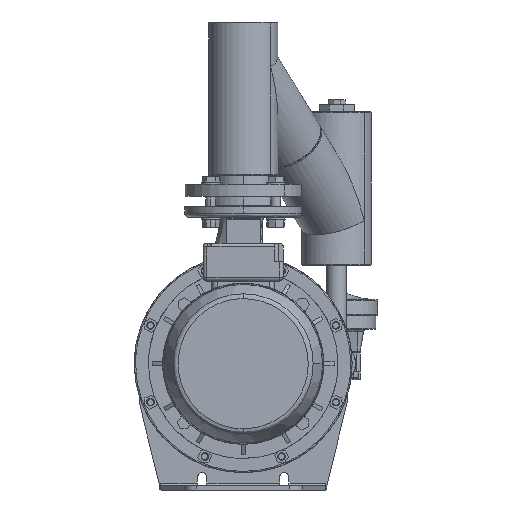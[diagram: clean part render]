
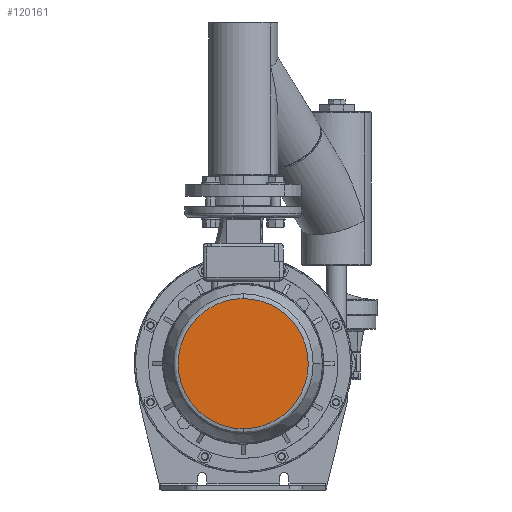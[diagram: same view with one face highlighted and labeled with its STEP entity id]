
A CAD part, front view. The second image highlights one B-rep face of the part: STEP entity #120161.
In plain terms, the highlighted planar face has unit normal (0, -1, 0).
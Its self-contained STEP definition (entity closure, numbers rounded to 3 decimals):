
#35271 = CARTESIAN_POINT ( 'NONE',  ( -154.478, -823.174, -78.019 ) ) ;
#35272 = CARTESIAN_POINT ( 'NONE',  ( 51.56, -823.174, -78.019 ) ) ;
#35273 = CARTESIAN_POINT ( 'NONE',  ( 51.56, -823.174, 128.019 ) ) ;
#35274 = CARTESIAN_POINT ( 'NONE',  ( -154.478, -823.174, 128.019 ) ) ;
#35277 =( BOUNDED_CURVE ( )  B_SPLINE_CURVE ( 3, ( #35274, #35273, #35272, #35271 ),
 .UNSPECIFIED., .F., .F. ) 
 B_SPLINE_CURVE_WITH_KNOTS ( ( 4, 4 ),
 ( 0., 1. ),
 .UNSPECIFIED. ) 
 CURVE ( )  GEOMETRIC_REPRESENTATION_ITEM ( )  RATIONAL_B_SPLINE_CURVE ( ( 1., 0.333, 0.333, 1. ) ) 
 REPRESENTATION_ITEM ( '' )  );
#35279 = DIRECTION ( 'NONE',  ( 1., 0., 0. ) ) ;
#35280 = DIRECTION ( 'NONE',  ( 0., -1., 0. ) ) ;
#35281 = CARTESIAN_POINT ( 'NONE',  ( -154.478, -823.174, 25. ) ) ;
#35282 = AXIS2_PLACEMENT_3D ( 'NONE', #35281, #35280, #35279 ) ;
#35283 = PLANE ( 'NONE',  #35282 ) ;
#35285 = FACE_OUTER_BOUND ( 'NONE', #120118, .T. ) ;
#110518 = CARTESIAN_POINT ( 'NONE',  ( -154.478, -823.174, 128.019 ) ) ;
#110562 = CARTESIAN_POINT ( 'NONE',  ( -154.478, -823.174, 128.019 ) ) ;
#110563 = CARTESIAN_POINT ( 'NONE',  ( -360.517, -823.174, 128.019 ) ) ;
#110564 = CARTESIAN_POINT ( 'NONE',  ( -360.517, -823.174, -78.019 ) ) ;
#110565 = CARTESIAN_POINT ( 'NONE',  ( -154.478, -823.174, -78.019 ) ) ;
#110568 =( BOUNDED_CURVE ( )  B_SPLINE_CURVE ( 3, ( #110565, #110564, #110563, #110562 ),
 .UNSPECIFIED., .F., .F. ) 
 B_SPLINE_CURVE_WITH_KNOTS ( ( 4, 4 ),
 ( 0., 1. ),
 .UNSPECIFIED. ) 
 CURVE ( )  GEOMETRIC_REPRESENTATION_ITEM ( )  RATIONAL_B_SPLINE_CURVE ( ( 1., 0.333, 0.333, 1. ) ) 
 REPRESENTATION_ITEM ( '' )  );
#110634 = CARTESIAN_POINT ( 'NONE',  ( -154.478, -823.174, -78.019 ) ) ;
#116468 = VERTEX_POINT ( 'NONE', #110518 ) ;
#116476 = EDGE_CURVE ( 'NONE', #116503, #116468, #110568, .T. ) ;
#116503 = VERTEX_POINT ( 'NONE', #110634 ) ;
#120118 = EDGE_LOOP ( 'NONE', ( #120167, #120123 ) ) ;
#120123 = ORIENTED_EDGE ( 'NONE', *, *, #120162, .F. ) ;
#120161 = ADVANCED_FACE ( 'NONE', ( #35285 ), #35283, .T. ) ;
#120162 = EDGE_CURVE ( 'NONE', #116468, #116503, #35277, .T. ) ;
#120167 = ORIENTED_EDGE ( 'NONE', *, *, #116476, .F. ) ;
